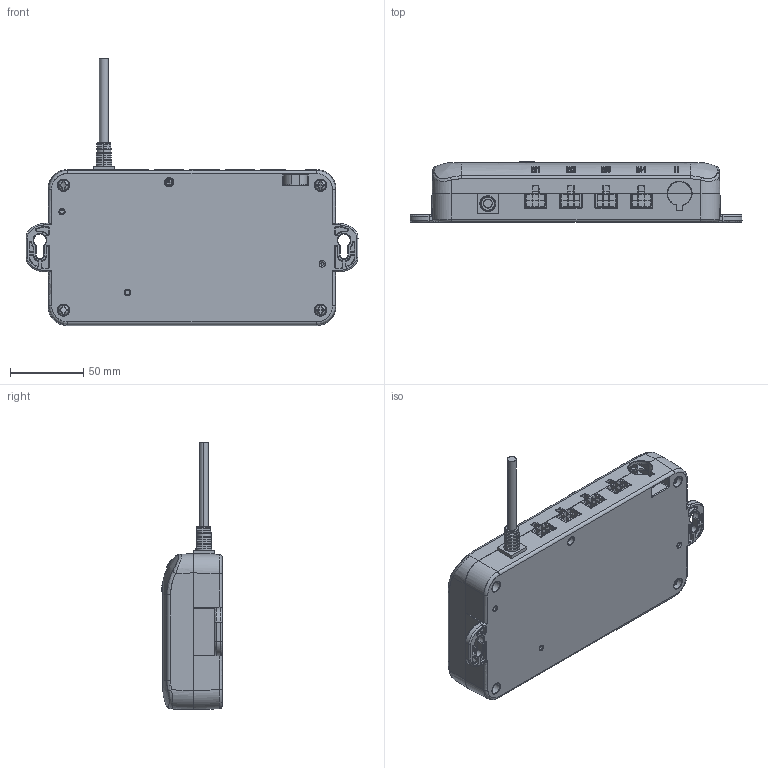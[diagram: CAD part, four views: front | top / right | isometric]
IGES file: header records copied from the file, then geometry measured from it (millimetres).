
Start section: SolidWorks IGES file using analytic representation for surfaces
Global section: file name: C:\Users\USER\Desktop\cf19-0215-asm.IGS; native system: SolidWorks 2023; preprocessor: SolidWorks 2023; author: USER; date: 240925.111607; units: millimetre
Bounding box: 226 x 41 x 181.8 mm (x, y, z)
Surface area: 100921.1 mm2 (no closed solid volume)
Topology: 0 solids, 0 shells, 915 faces, 7992 edges, 7986 vertices
Faces by surface type: bspline 696, revolution 219
